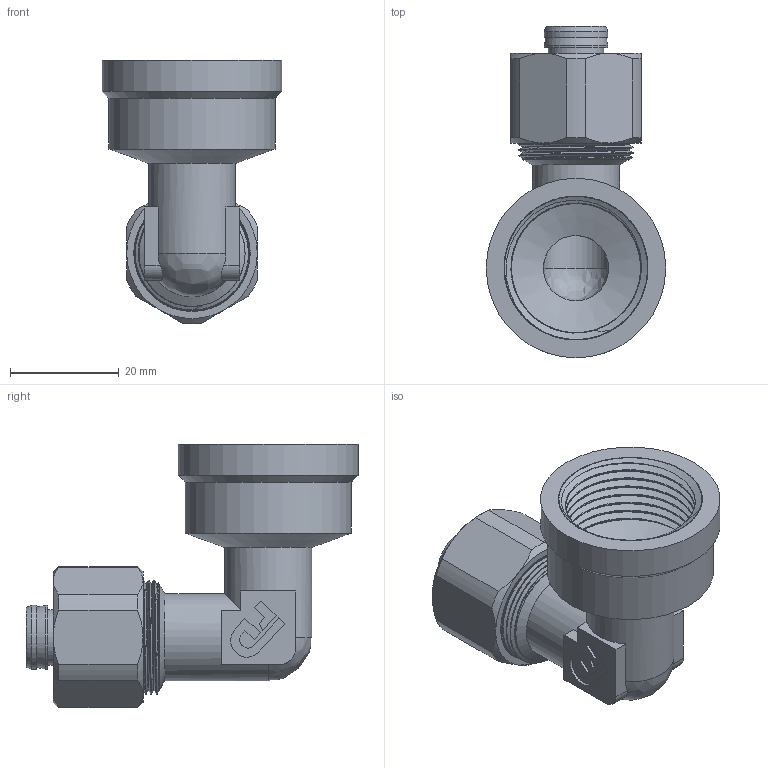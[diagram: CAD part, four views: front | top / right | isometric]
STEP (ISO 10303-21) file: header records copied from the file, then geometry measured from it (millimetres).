
FILE_DESCRIPTION(/* description */ (''),/* implementation_level */ '2;1');
FILE_NAME(/* name */ 'C:\Users\Doom\Desktop\Фадотех\Обжим\RFU12 30.03.2020\RFU12 30.03.2020.stp',/* time_stamp */ '2022-06-01T15:46:57+03:00',/* author */ ('Doom'),/* organization */ (''),/* preprocessor_version */ 'ST-DEVELOPER v18',/* originating_system */ 'Autodesk Inventor 2020',/* authorisation */ '');
FILE_SCHEMA (('CONFIG_CONTROL_DESIGN','AUTOMOTIVE_DESIGN { 1 0 10303 214 3 1 1 }'));
Length unit declared in the file: millimetre
Products named in the file (5): RFU12 30.03.2020; RFU12 30.03.2020_1; Olive 16 15.02.2020; FADO MC Socket-16 15.02.2020; FADO MC Nut-16 15.02.2020
Assembly tree (4 placements, depth 2):
  RFU12 30.03.2020
    RFU12 30.03.2020_1
    Olive 16 15.02.2020
    FADO MC Socket-16 15.02.2020
    FADO MC Nut-16 15.02.2020
Bounding box: 33 x 61 x 48.49 mm (x, y, z)
Volume: 16261.4 mm3; surface area: 22264.6 mm2
Topology: 7 solids, 7 shells, 577 faces, 1585 edges, 1061 vertices
Faces by surface type: bspline 262, plane 188, cylinder 96, cone 31
Full cylindrical faces by diameter (mm): 8.5 x1, 10.2 x2, 11.7 x4, 12 x2, 12.6 x1, 14.7 x2, 15.5 x1, 16 x2, 16.5 x1, 19 x1, 19.5 x1, 19.517 x2, 19.867 x12, 21 x8, 21.35 x2, 23.75 x7, 26.44 x2, 30.5 x1, 33 x1
Entity records: 36909 total; most frequent: CARTESIAN_POINT 23853, ORIENTED_EDGE 3150, DIRECTION 1860, EDGE_CURVE 1575, VERTEX_POINT 1057, LINE 656, VECTOR 656, EDGE_LOOP 634
